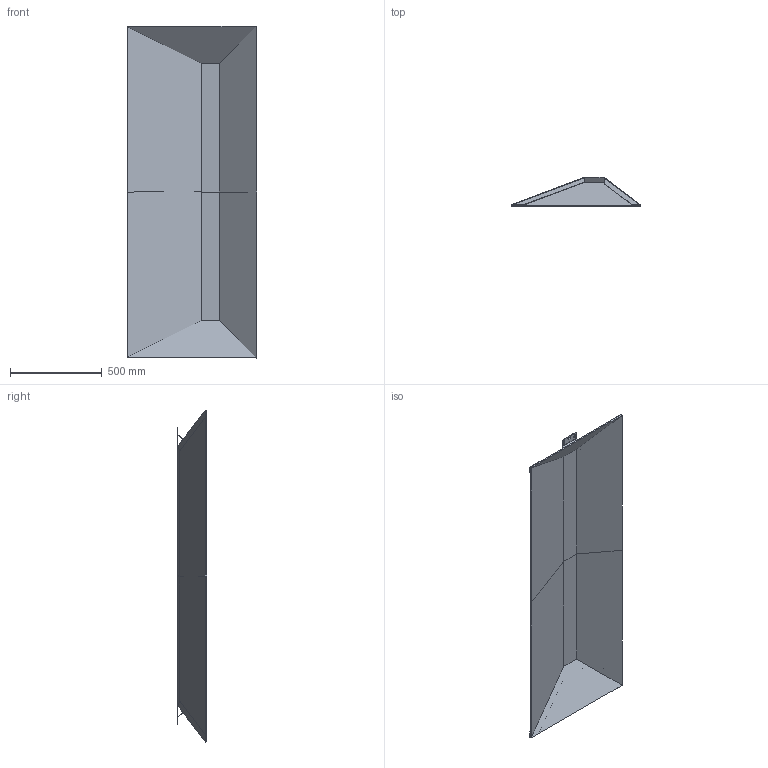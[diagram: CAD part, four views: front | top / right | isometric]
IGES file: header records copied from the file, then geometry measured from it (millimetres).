
Global section: file name: X:\FIAM\File-3D_x_sito-web\REVERSO\Reverso-mirror_180x70.igs; native system: Rhinoceros ( Aug 11 2021 ); preprocessor: Trout Lake IGES 012 Aug 11 2021; date: 230601.134339; units: millimetre
Bounding box: 705.71 x 158 x 1807.2 mm (x, y, z)
Surface area: 3748497.6 mm2 (no closed solid volume)
Topology: 0 solids, 0 shells, 148 faces, 1178 edges, 1174 vertices
Faces by surface type: bspline 148
